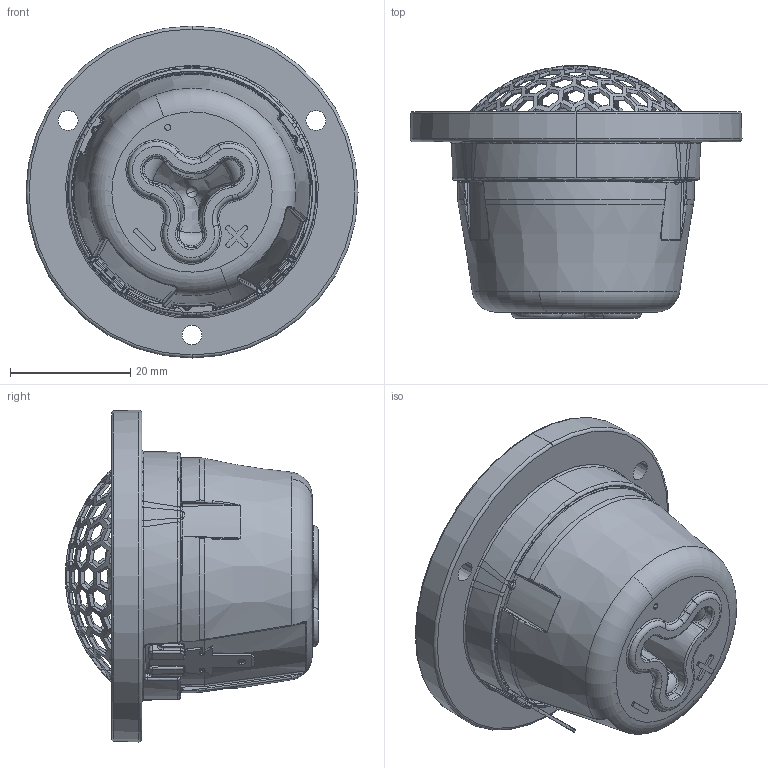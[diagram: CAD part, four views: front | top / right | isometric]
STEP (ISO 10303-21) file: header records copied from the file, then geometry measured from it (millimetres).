
FILE_DESCRIPTION (( 'STEP AP214' ), '1' );
FILE_NAME ('D2004_602000.STEP', '2020-11-03T10:46:25', ( '' ), ( '' ), 'SwSTEP 2.0', 'SolidWorks 2019', '' );
FILE_SCHEMA (( 'AUTOMOTIVE_DESIGN' ));
Length unit declared in the file: millimetre
Products named in the file (1): D2004_602000
Bounding box: 55.26 x 42.01 x 55.26 mm (x, y, z)
Volume: 39515.1 mm3; surface area: 13994.8 mm2
Topology: 3 solids, 3 shells, 1362 faces, 3817 edges, 2409 vertices
Faces by surface type: plane 639, bspline 240, cylinder 203, torus 136, cone 105, sphere 39
Entity records: 65202 total; most frequent: CARTESIAN_POINT 16387, ORIENTED_EDGE 7576, DIRECTION 6976, EDGE_CURVE 3788, AXIS2_PLACEMENT_3D 2972, VERTEX_POINT 2409, CIRCLE 1849, EDGE_LOOP 1487
